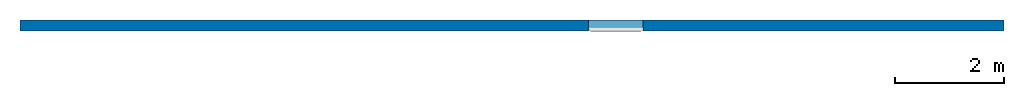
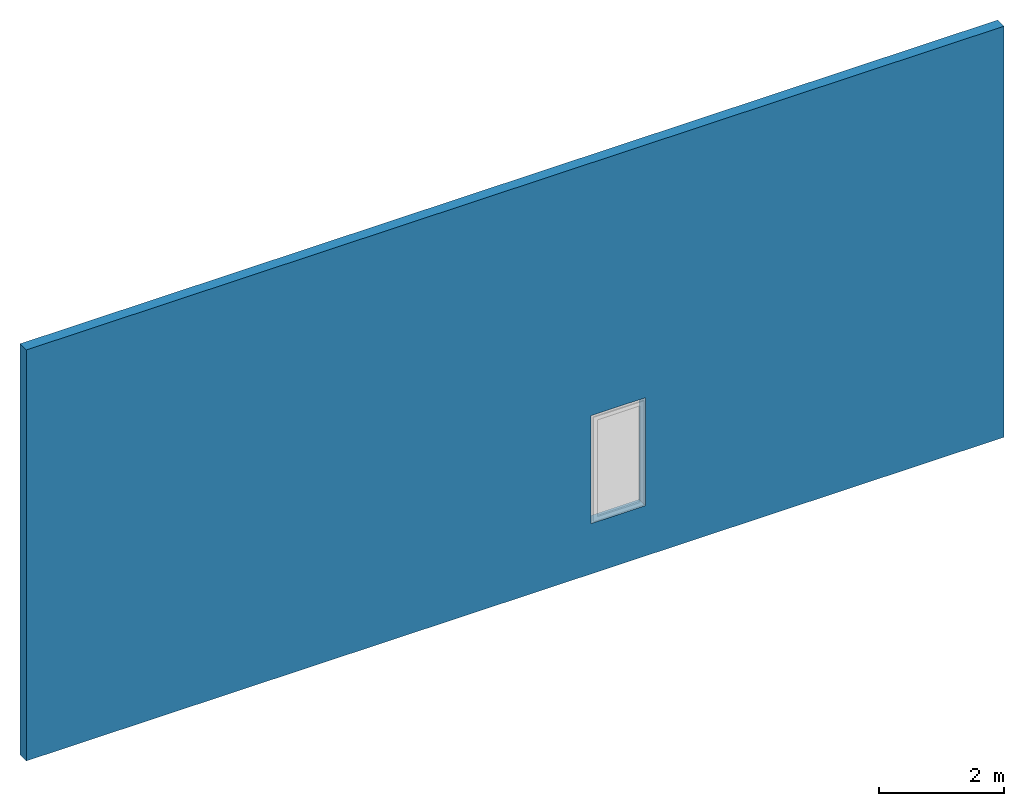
# One storey, part 1 of 2: 1 wall, 1 opening.
"""IFC2X3 building model written with IfcOpenShell, lengths in millimetres."""

from ifc_helpers import new_model, entity, si_unit, converted_unit, derived_unit, direction, frame, frame_2d, origin, place, context, subcontext, project, spatial, rectangle, extrude, material, layer, layer_set, layer_usage, type_object, element, save


model = new_model("IFC2X3")

# Units and contexts
model_context = context("Model", 3, precision=0.01, world=origin(), true_north=direction((6.12303176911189e-17, 1.0)))
body_context = subcontext(model_context, "Body", "Model", "MODEL_VIEW")
ifc_project = project(units=[si_unit("LENGTHUNIT", "METRE", prefix="MILLI"), si_unit("AREAUNIT", "SQUARE_METRE"), si_unit("VOLUMEUNIT", "CUBIC_METRE"), converted_unit("PLANEANGLEUNIT", "DEGREE", entity("IfcRatioMeasure", 0.0174532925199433), si_unit("PLANEANGLEUNIT", "RADIAN"), dimensions=[0, 0, 0, 0, 0, 0, 0]), si_unit("MASSUNIT", "GRAM", prefix="KILO"), derived_unit("MASSDENSITYUNIT", [(si_unit("MASSUNIT", "GRAM", prefix="KILO"), 1), (si_unit("LENGTHUNIT", "METRE"), -3)]), si_unit("TIMEUNIT", "SECOND"), si_unit("FREQUENCYUNIT", "HERTZ"), si_unit("THERMODYNAMICTEMPERATUREUNIT", "DEGREE_CELSIUS"), derived_unit("THERMALTRANSMITTANCEUNIT", [(si_unit("MASSUNIT", "GRAM", prefix="KILO"), 1), (si_unit("THERMODYNAMICTEMPERATUREUNIT", "KELVIN"), -1), (si_unit("TIMEUNIT", "SECOND"), -3)]), derived_unit("VOLUMETRICFLOWRATEUNIT", [(si_unit("LENGTHUNIT", "METRE"), 3), (si_unit("TIMEUNIT", "SECOND"), -1)]), si_unit("ELECTRICCURRENTUNIT", "AMPERE"), si_unit("ELECTRICVOLTAGEUNIT", "VOLT"), si_unit("POWERUNIT", "WATT"), si_unit("FORCEUNIT", "NEWTON", prefix="KILO"), si_unit("ILLUMINANCEUNIT", "LUX"), si_unit("LUMINOUSFLUXUNIT", "LUMEN"), si_unit("LUMINOUSINTENSITYUNIT", "CANDELA"), derived_unit("USERDEFINED", [(si_unit("MASSUNIT", "GRAM", prefix="KILO"), -1), (si_unit("LENGTHUNIT", "METRE"), -2), (si_unit("TIMEUNIT", "SECOND"), 3), (si_unit("LUMINOUSFLUXUNIT", "LUMEN"), 1)]), derived_unit("LINEARVELOCITYUNIT", [(si_unit("LENGTHUNIT", "METRE"), 1), (si_unit("TIMEUNIT", "SECOND"), -1)]), si_unit("PRESSUREUNIT", "PASCAL"), derived_unit("USERDEFINED", [(si_unit("LENGTHUNIT", "METRE"), -2), (si_unit("MASSUNIT", "GRAM", prefix="KILO"), 1), (si_unit("TIMEUNIT", "SECOND"), -2)])], contexts=[model_context])

# Site, building, storey
site_placement = place(None, origin())
site = spatial("IfcSite", under=ifc_project, at=site_placement, Name="Default", CompositionType="ELEMENT")
building_placement = place(site_placement, origin())
building = spatial("IfcBuilding", under=site, at=building_placement, CompositionType="ELEMENT")
storey_placement = place(building_placement, origin())
storey = spatial("IfcBuildingStorey", under=building, at=storey_placement, Name="Nivel 1", CompositionType="ELEMENT", Elevation=0.0)

# Wall, opening
ifc_material = material(Name="Muro por defecto")
ifc_layer = layer(ifc_material, 200.0)
ifc_layer_set = layer_set([ifc_layer], Name="Muro básico:Genérico - 200 mm")
ifc_layer_usage = layer_usage(ifc_layer_set, "AXIS2", "NEGATIVE", 100.0)
wall_type = type_object("IfcWallType", Name="Muro básico:Genérico - 200 mm", PredefinedType="STANDARD", material=ifc_layer_set)
wall_placement = place(storey_placement, frame((-10823.7335756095, 2881.09928072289, 0.0)))
wall = element("IfcWallStandardCase", 1, at=wall_placement, inside=storey, type_object=wall_type, material=ifc_layer_usage, Name="Muro básico:Genérico - 200 mm", ObjectType="Muro básico:Genérico - 200 mm:398", context=body_context, shape_type="SweptSolid", body=[
    extrude(rectangle(XDim=18000.0, YDim=200.0, at=frame_2d((9000.0, -6.3948846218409e-14), x_axis=(-1.0, 0.0))), origin(), (0.0, 0.0, 1.0), 8000.0),
])
opening_placement = place(wall_placement, origin())
element("IfcOpeningElement", 2, at=opening_placement, cuts=wall, Name="Muro básico:Genérico - 200 mm", ObjectType="Opening", context=body_context, shape_type="SweptSolid", body=[
    extrude(rectangle(XDim=2100.0, YDim=1000.0, at=frame_2d((0.0, 0.0), x_axis=(0.0, 1.0))), frame((10900.0, -1424.0, 2030.60481912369), z_axis=(0.0, 1.0, 0.0), x_axis=(-1.0, 0.0, 0.0)), (0.0, 0.0, 1.0), 3048.0),
])

save(model, "model.ifc")
